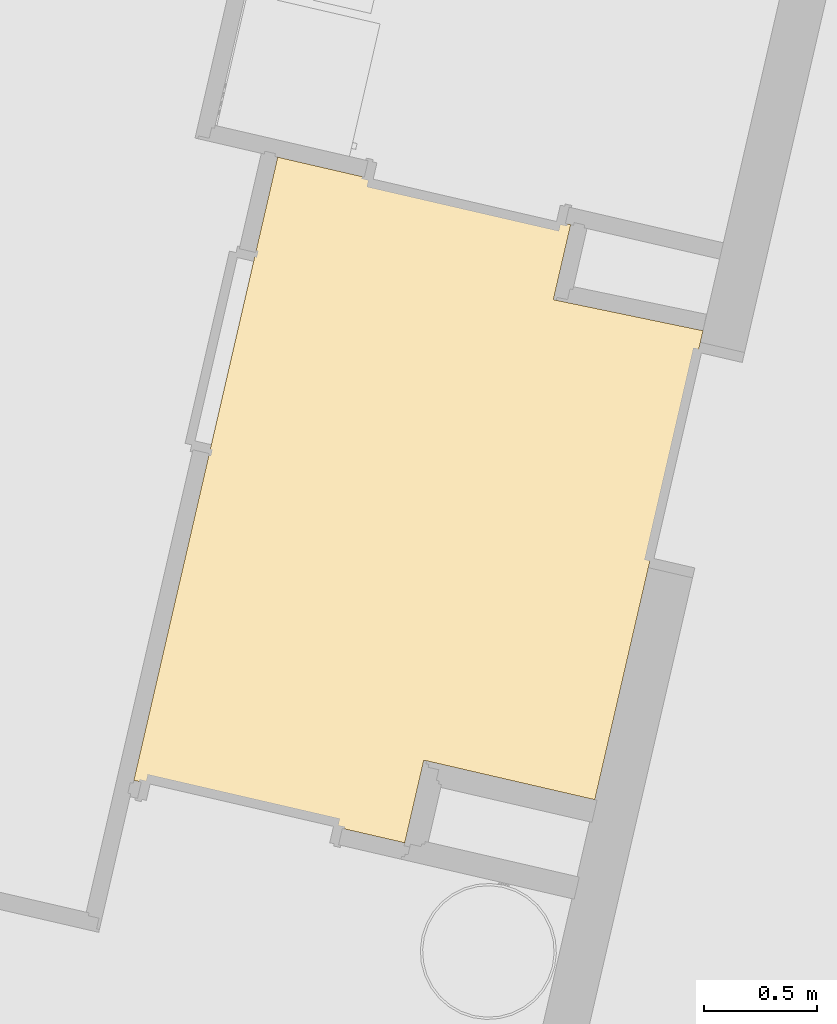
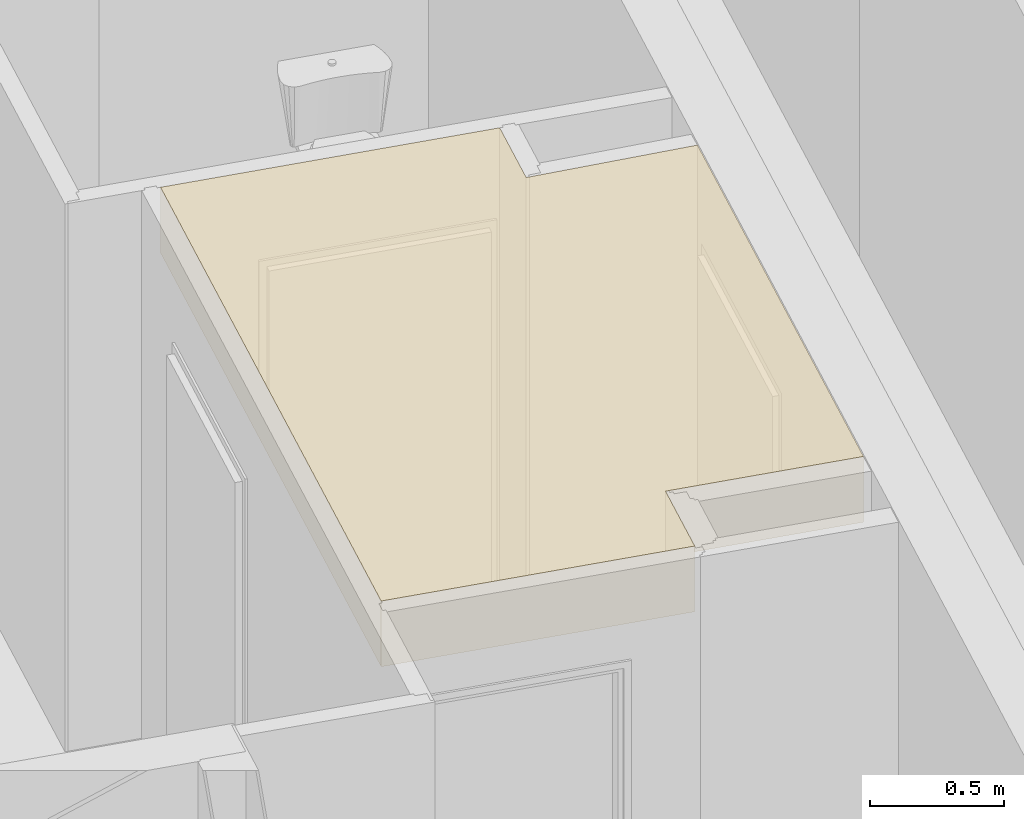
# One storey, part 59 of 91: 1 covering.
"""IFC2X3 building model written with IfcOpenShell, lengths in metres."""

import ifcopenshell
import ifcopenshell.guid

model = None  # the IFC model being written
_history = None  # IfcOwnerHistory: only IFC2X3 demands one
_inside = {}  # id of a spatial element -> (the spatial element, [elements in it])
_under = {}  # id of a project, library or spatial element -> (it, [spatial elements below it])
_declared = {}  # id of a project -> (the project, [libraries it declares])
_typed = {}  # id of a type object -> (the type object, [elements of that type])
_made_of = {}  # id of a material, layer set ... -> (it, [elements and type objects made of it])


def new_model(schema):
    """Start an empty IFC model of exactly this schema.

    Asked for "IFC4X3", IfcOpenShell would pick the latest addendum, in which some entities
    have other attributes; the version numbers below select the first issue.
    IFC2X3 requires an IfcOwnerHistory on every rooted entity: one is made here for all.
    """
    global model, _history
    if schema == "IFC4X3":
        model = ifcopenshell.file(schema_version=(4, 3, 0, 0))
    else:
        model = ifcopenshell.file(schema=schema)
    _inside.clear()
    _under.clear()
    _declared.clear()
    _typed.clear()
    _made_of.clear()
    _history = None
    if model.schema == "IFC2X3":
        org = make("IfcOrganization", Name="unknown")
        user = make(
            "IfcPersonAndOrganization",
            ThePerson=make("IfcPerson", FamilyName="unknown"),
            TheOrganization=org,
        )
        app = make(
            "IfcApplication",
            ApplicationDeveloper=org,
            Version="unknown",
            ApplicationFullName="unknown",
            ApplicationIdentifier="unknown",
        )
        _history = make(
            "IfcOwnerHistory",
            OwningUser=user,
            OwningApplication=app,
            ChangeAction="ADDED",
            CreationDate=0,
        )
    return model


def make(cls, **values):
    """One entity of the class cls with the attributes given. An attribute that is None is left unset."""
    return model.create_entity(
        cls, **{name: value for name, value in values.items() if value is not None}
    )


def entity(cls, *values):
    """Any entity or typed value of the class cls, its attributes in the order of the schema. None: left unset."""
    e = model.create_entity(cls)
    for i, value in enumerate(values):
        if value is not None:
            e[i] = value
    return e


def rooted(cls, **values):
    """An entity with a GlobalId (a new one), such as an element, a storey or a relation."""
    return make(cls, GlobalId=ifcopenshell.guid.new(), OwnerHistory=_history, **values)


def si_unit(unit_type, name, prefix=None):
    """IfcSIUnit, for example si_unit("LENGTHUNIT", "METRE", prefix="MILLI")."""
    return make("IfcSIUnit", UnitType=unit_type, Prefix=prefix, Name=name)


def converted_unit(unit_type, name, factor, base, dimensions=None, offset=None):
    """IfcConversionBasedUnit, such as the inch: factor (a typed value) times the base unit."""
    return make(
        "IfcConversionBasedUnit"
        if offset is None
        else "IfcConversionBasedUnitWithOffset",
        ConversionOffset=offset,
        Dimensions=None
        if dimensions is None
        else entity("IfcDimensionalExponents", *dimensions),
        UnitType=unit_type,
        Name=name,
        ConversionFactor=make(
            "IfcMeasureWithUnit", ValueComponent=factor, UnitComponent=base
        ),
    )


def derived_unit(unit_type, elements):
    """IfcDerivedUnit: a product of units, each with its exponent."""
    return make(
        "IfcDerivedUnit",
        Elements=[
            make("IfcDerivedUnitElement", Unit=unit, Exponent=power)
            for unit, power in elements
        ],
        UnitType=unit_type,
    )


def money_unit(currency):
    """IfcMonetaryUnit."""
    return make("IfcMonetaryUnit", Currency=currency)


def assignment(units):
    """IfcUnitAssignment: the units of a project."""
    return None if units is None else make("IfcUnitAssignment", Units=units)


def point(xyz):
    """IfcCartesianPoint."""
    return None if xyz is None else make("IfcCartesianPoint", Coordinates=xyz)


def direction(xyz):
    """IfcDirection."""
    return None if xyz is None else make("IfcDirection", DirectionRatios=xyz)


def frame(location, z_axis=None, x_axis=None):
    """IfcAxis2Placement3D, a coordinate frame: its origin and axes. An axis left out is left unset."""
    return make(
        "IfcAxis2Placement3D",
        Location=point(location),
        Axis=direction(z_axis),
        RefDirection=direction(x_axis),
    )


def origin_with_axes():
    """The frame at (0, 0, 0) with the z axis (0, 0, 1) and the x axis (1, 0, 0) written out."""
    return frame((0.0, 0.0, 0.0), z_axis=(0.0, 0.0, 1.0), x_axis=(1.0, 0.0, 0.0))


def place(relative_to, where):
    """IfcLocalPlacement: puts the frame where relative to a parent placement (None: the world)."""
    return make(
        "IfcLocalPlacement", PlacementRelTo=relative_to, RelativePlacement=where
    )


def context(
    kind, dimensions, precision=None, world=None, true_north=None, identifier=None
):
    """IfcGeometricRepresentationContext, for example the 3D "Model" context."""
    return make(
        "IfcGeometricRepresentationContext",
        ContextIdentifier=identifier,
        ContextType=kind,
        CoordinateSpaceDimension=dimensions,
        Precision=precision,
        WorldCoordinateSystem=world,
        TrueNorth=true_north,
    )


def subcontext(parent, identifier, kind, view, scale=None):
    """IfcGeometricRepresentationSubContext, for example "Body" below "Model"."""
    return make(
        "IfcGeometricRepresentationSubContext",
        ContextIdentifier=identifier,
        ContextType=kind,
        ParentContext=parent,
        TargetScale=scale,
        TargetView=view,
    )


def project(units=None, contexts=None):
    """IfcProject with its units and contexts."""
    return rooted(
        "IfcProject",
        Name="project",
        RepresentationContexts=contexts,
        UnitsInContext=assignment(units),
    )


def spatial(cls, under=None, at=None, **own):
    """A site, building, storey or space (cls), placed at a placement, below another one or the project."""
    s = rooted(cls, ObjectPlacement=at, **own)
    if under is not None:
        _under.setdefault(under.id(), (under, []))[1].append(s)
    return s


def faces_of(points, faces, orient=None, outer=None):
    """IfcFace entities. A face is a list of loops; a loop is a list of indices into points, from 0.

    orient and outer hold one flag for each loop. By default every Orientation is true, the
    first loop of a face is its IfcFaceOuterBound and the others are IfcFaceBound.
    """
    made = []
    for i, loops in enumerate(faces):
        bounds = []
        for j, loop in enumerate(loops):
            is_outer = j == 0 if outer is None else outer[i][j]
            bounds.append(
                make(
                    "IfcFaceOuterBound" if is_outer else "IfcFaceBound",
                    Bound=make("IfcPolyLoop", Polygon=[points[k] for k in loop]),
                    Orientation=True if orient is None else orient[i][j],
                )
            )
        made.append(make("IfcFace", Bounds=bounds))
    return made


def faceted_brep(points, faces, orient=None, outer=None, voids=None):
    """IfcFacetedBrep: a solid bounded by flat faces; with voids (closed shells), ...WithVoids."""
    shared = [point(p) for p in points]
    hull = make("IfcClosedShell", CfsFaces=faces_of(shared, faces, orient, outer))
    if voids is None:
        return make("IfcFacetedBrep", Outer=hull)
    return make(
        "IfcFacetedBrepWithVoids",
        Outer=hull,
        Voids=[
            make(cls, CfsFaces=faces_of(shared, fs, o, b)) for cls, fs, o, b in voids
        ],
    )


def shape(context_of_items, identifier, shape_type, items):
    """IfcShapeRepresentation: the items that make up one representation, for example the "Body"."""
    return make(
        "IfcShapeRepresentation",
        ContextOfItems=context_of_items,
        RepresentationIdentifier=identifier,
        RepresentationType=shape_type,
        Items=items,
    )


def material(Name=None, Category=None):
    """IfcMaterial."""
    return make("IfcMaterial", Name=Name, Category=Category)


def made_of(thing, what):
    """Note that an element or type object is made of a material, layer set ...; save() writes the relation."""
    if what is not None:
        _made_of.setdefault(what.id(), (what, []))[1].append(thing)
    return thing


def type_object(cls, material=None, **own):
    """A type object (cls), such as IfcWallType, which elements share."""
    return made_of(rooted(cls, **own), material)


def element(
    cls,
    number,
    at=None,
    inside=None,
    cuts=None,
    type_object=None,
    material=None,
    context=None,
    identifier="Body",
    shape_type=None,
    held_by="IfcProductDefinitionShape",
    body=None,
    shapes=None,
    **own,
):
    """One element of the class cls, such as IfcWall. Its Tag is "e" and its number.

    at: its placement. inside: the storey or other place that contains it. cuts: it is an
    opening in that element (IfcRelVoidsElement). A single representation is given by context,
    identifier, shape_type and body (its items); several are given by shapes. held_by: the class
    of the entity that holds the representations. save() writes the other relations.
    """
    e = rooted(cls, Tag="e%d" % number, ObjectPlacement=at, **own)
    if body is not None:
        shapes = [shape(context, identifier, shape_type, body)]
    if shapes is not None:
        e.Representation = make(held_by, Representations=shapes)
    if inside is not None:
        _inside.setdefault(inside.id(), (inside, []))[1].append(e)
    if cuts is not None:
        rooted(
            "IfcRelVoidsElement", RelatingBuildingElement=cuts, RelatedOpeningElement=e
        )
    if type_object is not None:
        _typed.setdefault(type_object.id(), (type_object, []))[1].append(e)
    return made_of(e, material)


def aggregate(whole, parts):
    """IfcRelAggregates: a whole, such as a stair, and the parts it consists of."""
    return rooted("IfcRelAggregates", RelatingObject=whole, RelatedObjects=parts)


def save(model, path):
    """Write the relations noted so far, then the file.

    IfcRelAggregates (storeys below a building ...), IfcRelContainedInSpatialStructure (elements
    in a storey), IfcRelDefinesByType, IfcRelAssociatesMaterial and IfcRelDeclares: one each for
    every whole, place, type object, material and project.
    """
    for whole, parts in _under.values():
        aggregate(whole, parts)
    for where, things in _inside.values():
        rooted(
            "IfcRelContainedInSpatialStructure",
            RelatedElements=things,
            RelatingStructure=where,
        )
    for kind, things in _typed.values():
        rooted("IfcRelDefinesByType", RelatedObjects=things, RelatingType=kind)
    for what, things in _made_of.values():
        rooted("IfcRelAssociatesMaterial", RelatedObjects=things, RelatingMaterial=what)
    for by, libraries in _declared.values():
        rooted("IfcRelDeclares", RelatingContext=by, RelatedDefinitions=libraries)
    model.write(path)


model = new_model("IFC2X3")

# Units and contexts
model_context = context("Model", 3, precision=1e-05, world=origin_with_axes(), true_north=direction((0.0, 1.0)))
body_context = subcontext(model_context, "Body", "Model", "MODEL_VIEW")
ifc_project = project(units=[si_unit("LENGTHUNIT", "METRE"), si_unit("AREAUNIT", "SQUARE_METRE"), si_unit("VOLUMEUNIT", "CUBIC_METRE"), converted_unit("PLANEANGLEUNIT", "DEGREE", entity("IfcPlaneAngleMeasure", 0.0174532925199), si_unit("PLANEANGLEUNIT", "RADIAN"), dimensions=[0, 0, 0, 0, 0, 0, 0]), si_unit("SOLIDANGLEUNIT", "STERADIAN"), money_unit("EUR"), converted_unit("TIMEUNIT", "Year", entity("IfcTimeMeasure", 31556926.0), si_unit("TIMEUNIT", "SECOND"), dimensions=[0, 0, 1, 0, 0, 0, 0]), si_unit("MASSUNIT", "GRAM", prefix="KILO"), si_unit("THERMODYNAMICTEMPERATUREUNIT", "DEGREE_CELSIUS"), si_unit("LUMINOUSINTENSITYUNIT", "LUMEN"), si_unit("ENERGYUNIT", "JOULE", prefix="MEGA"), derived_unit("THERMALCONDUCTANCEUNIT", [(si_unit("POWERUNIT", "WATT"), 1), (si_unit("LENGTHUNIT", "METRE"), -1), (si_unit("THERMODYNAMICTEMPERATUREUNIT", "KELVIN"), -1)]), derived_unit("SPECIFICHEATCAPACITYUNIT", [(si_unit("ENERGYUNIT", "JOULE"), 1), (si_unit("MASSUNIT", "GRAM", prefix="KILO"), -1), (si_unit("THERMODYNAMICTEMPERATUREUNIT", "KELVIN"), -1)]), derived_unit("MASSDENSITYUNIT", [(si_unit("MASSUNIT", "GRAM", prefix="KILO"), 1), (si_unit("VOLUMEUNIT", "CUBIC_METRE"), -1)])], contexts=[model_context])

# Site, building, storey
site_placement = place(None, origin_with_axes())
site = spatial("IfcSite", under=ifc_project, at=site_placement, Name="Site", CompositionType="ELEMENT")
building_placement = place(site_placement, origin_with_axes())
building = spatial("IfcBuilding", under=site, at=building_placement, Name="Bâtiment", CompositionType="ELEMENT")
storey_placement = place(building_placement, frame((0.0, 0.0, 5.44), z_axis=(0.0, 0.0, 1.0), x_axis=(1.0, 0.0, 0.0)))
storey = spatial("IfcBuildingStorey", under=building, at=storey_placement, Name="R+2", CompositionType="ELEMENT", Elevation=5.44)

# Covering
ifc_material = material(Name="Finition int - Plaque de plâtre")
covering_type = type_object("IfcCoveringType", Name="Finition int - Plaque de plâtre 300", PredefinedType="CEILING")
covering_placement = place(storey_placement, frame((-13.8972533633, -12.9143163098, 2.5), z_axis=(0.0, 0.0, 1.0), x_axis=(1.0, 0.0, 0.0)))
element("IfcCovering", 1, at=covering_placement, inside=storey, type_object=covering_type, material=ifc_material, Name="Dalle_004", PredefinedType="CEILING", context=body_context, shape_type="Brep", body=[
    faceted_brep([(0.477307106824, 2.06816908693, 0.0), (0.0, 0.0, 0.0), (0.0, 0.0, -0.3), (0.477307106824, 2.06816908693, -0.3), (-0.838279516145, -0.190366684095, 0.0), (-0.754175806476, 0.174054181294, 0.0), (-0.182803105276, 2.20511983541, 0.0), (-0.106570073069, 2.53543714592, 0.0), (-1.39860769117, 2.83362298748, 0.0), (-2.03287840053, 0.0853315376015, 0.0), (-0.754175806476, 0.174054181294, -0.3), (-0.182803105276, 2.20511983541, -0.3), (-0.838279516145, -0.190366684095, -0.3), (-2.03287840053, 0.0853315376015, -0.3), (-1.39860769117, 2.83362298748, -0.3), (-0.106570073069, 2.53543714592, -0.3)], [[[0, 1, 2, 3]], [[4, 5, 1, 0, 6, 7, 8, 9]], [[1, 5, 10, 2]], [[11, 3, 2, 10, 12, 13, 14, 15]], [[6, 0, 3, 11]], [[5, 4, 12, 10]], [[7, 6, 11, 15]], [[8, 7, 15, 14]], [[9, 8, 14, 13]], [[4, 9, 13, 12]]]),
])

save(model, "model.ifc")
